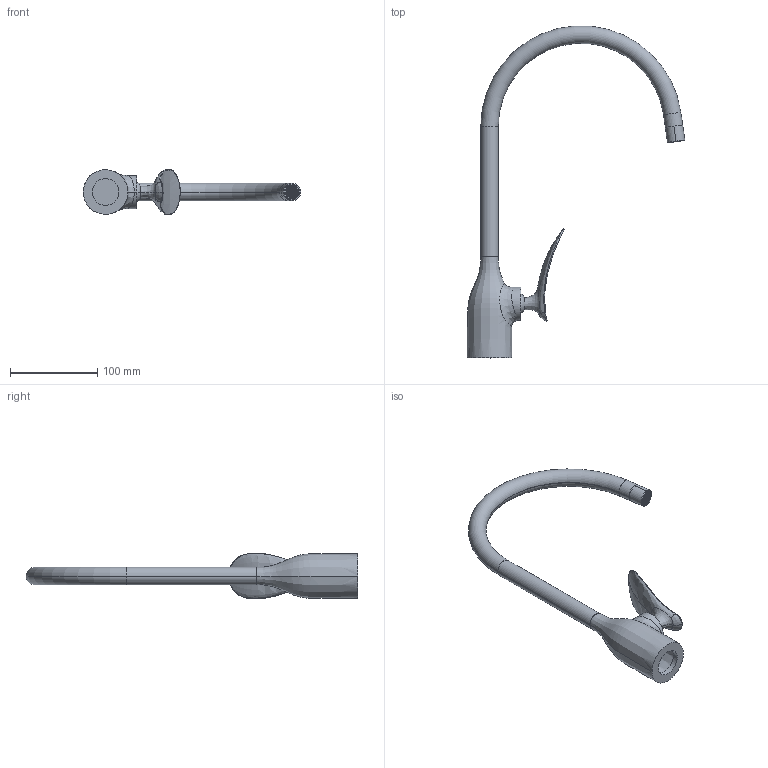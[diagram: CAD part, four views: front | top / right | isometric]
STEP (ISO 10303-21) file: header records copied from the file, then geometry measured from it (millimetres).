
FILE_DESCRIPTION((''),'2;1');
FILE_NAME('ZJ-LT-93001_ASM_50_ASM','2019-01-05T',('libo'),(''),'PRO/ENGINEER BY PARAMETRIC TECHNOLOGY CORPORATION, 2014200','PRO/ENGINEER BY PARAMETRIC TECHNOLOGY CORPORATION, 2014200','');
FILE_SCHEMA(('CONFIG_CONTROL_DESIGN'));
Length unit declared in the file: millimetre
Products named in the file (12): ZZ-CF-9301_70; JG-ZG-0114_8; JG-ZG-0115_14; ZZ-SB-0093J01_28; LS-WG-0126_18; HJ-GJ-0178_ASM_14_ASM; JG-ZB-0094_24; LP-FP-053_5; XS-PD-0069MF_10; XS-SL-0191_10; ZJ-GJ-0226_ASM_35_ASM; ZJ-LT-93001_ASM_50_ASM
Assembly tree (11 placements, depth 4):
  ZJ-LT-93001_ASM_50_ASM
    ZZ-CF-9301_70
    JG-ZG-0114_8
    JG-ZG-0115_14
    ZZ-SB-0093J01_28
    ZJ-GJ-0226_ASM_35_ASM
      HJ-GJ-0178_ASM_14_ASM
        LS-WG-0126_18
      JG-ZB-0094_24
      LP-FP-053_5
      XS-PD-0069MF_10
      XS-SL-0191_10
Bounding box: 248.84 x 379.82 x 52.17 mm (x, y, z)
Volume: 111338.7 mm3; surface area: 112955.4 mm2
Topology: 9 solids, 9 shells, 526 faces, 1352 edges, 893 vertices
Faces by surface type: plane 433, cylinder 54, bspline 22, sphere 6, cone 6, torus 4, extrusion 1
Entity records: 21813 total; most frequent: CARTESIAN_POINT 8685, ORIENTED_EDGE 2696, DIRECTION 2577, EDGE_CURVE 1348, VECTOR 1041, LINE 1040, VERTEX_POINT 893, AXIS2_PLACEMENT_3D 768
